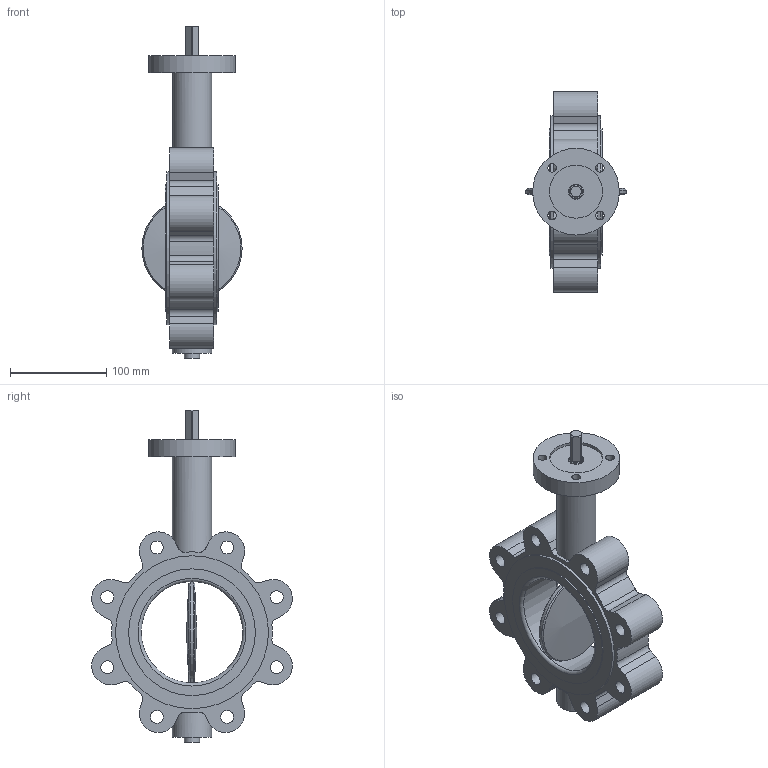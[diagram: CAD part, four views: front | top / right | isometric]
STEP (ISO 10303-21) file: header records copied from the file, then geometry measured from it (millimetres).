
FILE_DESCRIPTION((' '),'2;1');
FILE_NAME('N:\Technical Support\Private\Jomar Valve CAD\Actuation\Butterfly\600-04DS_BFusionCopy.stp','2017-06-05T15:42:57',(' '),(' '),' ','ACIS',' ');
FILE_SCHEMA(('CONFIG_CONTROL_DESIGN'));
Length unit declared in the file: inch
Products named in the file (6): N:\Technical Support\Private\Jomar Valve CAD\Actuation\Butterfly\600-04DS_BFusionCopy.stp; Body1; Body2; Body3; Body4; Body5
Assembly tree (5 placements, depth 2):
  N:\Technical Support\Private\Jomar Valve CAD\Actuation\Butterfly\600-04DS_BFusionCopy.stp
    Body1
    Body2
    Body3
    Body4
    Body5
Bounding box: 104.14 x 208.32 x 344.72 mm (x, y, z)
Volume: 1328955.2 mm3; surface area: 166810.9 mm2
Topology: 5 solids, 5 shells, 117 faces, 311 edges, 210 vertices
Faces by surface type: cylinder 64, plane 40, cone 7, torus 2, bspline 2, sphere 2
Full cylindrical faces by diameter (mm): 8.992 x2, 13.335 x8, 15.672 x1, 15.748 x1, 40.64 x2, 54.991 x1, 89.992 x1, 104.14 x1, 105.41 x1, 131.572 x2, 158.75 x2
Entity records: 4515 total; most frequent: CARTESIAN_POINT 848, DIRECTION 626, ORIENTED_EDGE 542, EDGE_CURVE 271, AXIS2_PLACEMENT_3D 261, VERTEX_POINT 199, EDGE_LOOP 178, CIRCLE 127
